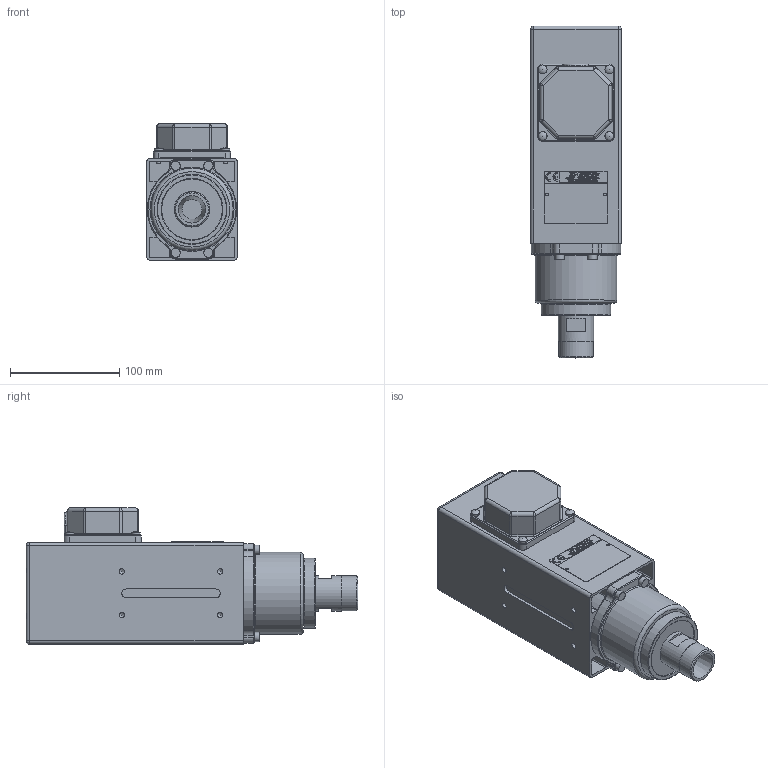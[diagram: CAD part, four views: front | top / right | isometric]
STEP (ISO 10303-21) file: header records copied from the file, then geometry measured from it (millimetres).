
FILE_DESCRIPTION( ( 'Unknown' ), '1' );
FILE_NAME( '//TEKNOMS/Tecnico/Disegni/COM/4147/STEP/COM41470167.stp', 'Unknown', ( 'Ing. Bottarel' ), ( 'Teknomotor S.r.l.' ), 'PSStep 17.0.49', 'Unknown', ' ' );
FILE_SCHEMA( ( 'AUTOMOTIVE_DESIGN { 1 0 10303 214 1 1 1 1 }' ) );
Length unit declared in the file: millimetre
Products named in the file (1): SEE02078
Bounding box: 83 x 303.7 x 124.7 mm (x, y, z)
Volume: 1745920.5 mm3; surface area: 173604 mm2
Topology: 1 solids, 11 shells, 1435 faces, 3783 edges, 2472 vertices
Faces by surface type: plane 1017, cylinder 285, cone 54, extrusion 42, torus 20, sphere 17
Full cylindrical faces by diameter (mm): 2.5 x2, 3.714 x4, 4 x12, 4.019 x4, 4.134 x8, 4.917 x22, 5 x12, 5.5 x4, 8 x4, 8.5 x4, 17.294 x1, 18 x1, 32 x1, 32.5 x1, 55 x1, 64 x1, 75 x1
Entity records: 55279 total; most frequent: CARTESIAN_POINT 10846, ORIENTED_EDGE 7134, DIRECTION 5954, EDGE_CURVE 3567, VERTEX_POINT 2416, AXIS2_PLACEMENT_3D 2017, VECTOR 1920, LINE 1878
